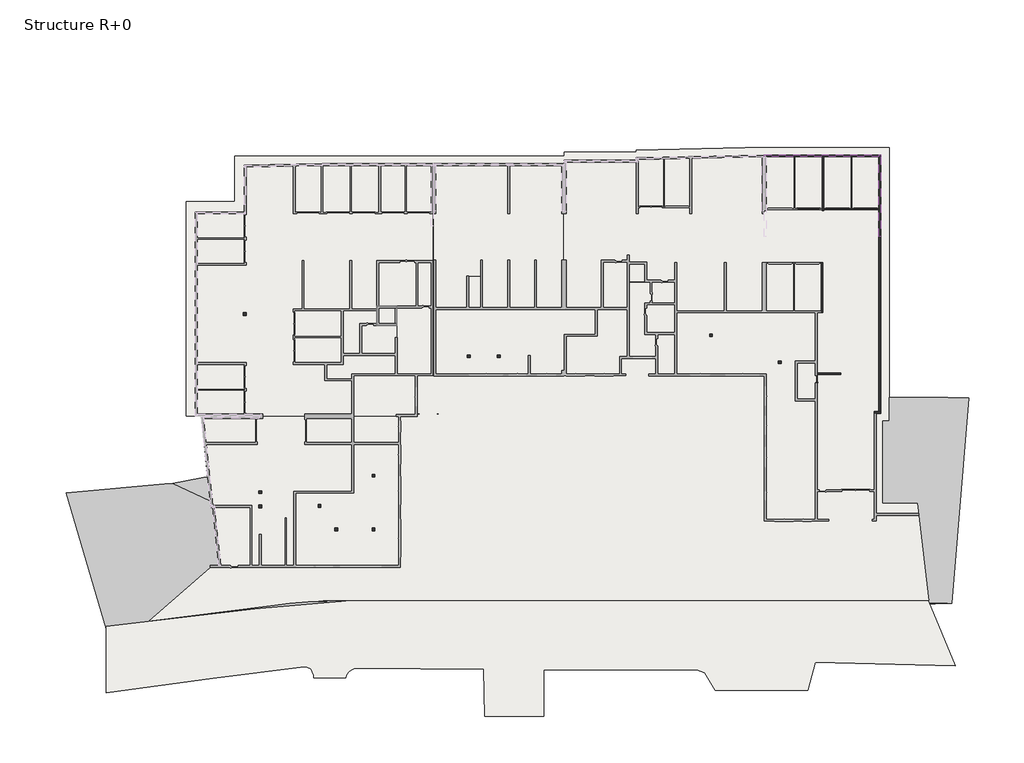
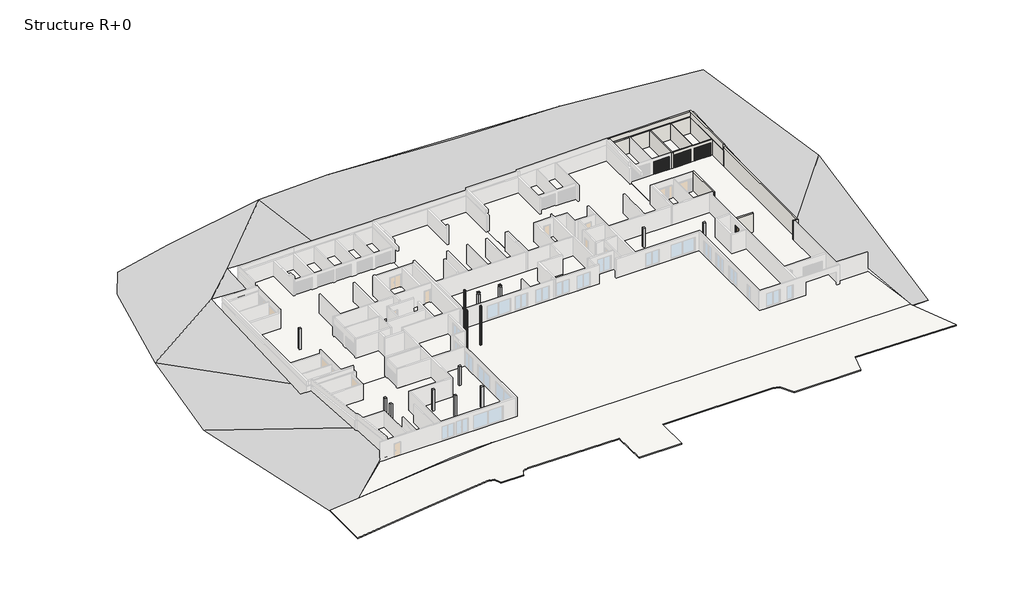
# One storey, part 5 of 5: 23 slabs, 14 columns, 11 walls, 4 doors, 2 proxies.
"""IFC4 building model written with IfcOpenShell, lengths in millimetres."""

from ifc_helpers import new_model, si_unit, point, frame, frame_2d, origin, origin_with_axes, place, context, project, spatial, polyline, circle_curve, trimmed, segment, composite_curve, outline, extrude, faceted_brep, triangles, transform, mapped, element, save
from components import tube_de_construction_hss_hss203x203x12_7_c158f98a, door_2_4m_x_2m_ca442cef, hb_simple_830_x_2040_mm_5aab85cf

model = new_model("IFC4")

# Units and contexts
model_context = context("Model", 3, world=origin())
ifc_project = project(units=[si_unit("LENGTHUNIT", "METRE", prefix="MILLI")], contexts=[model_context])

# Site, building, storey
site = spatial("IfcSite", under=ifc_project)
building = spatial("IfcBuilding", under=site)
storey = spatial("IfcBuildingStorey", under=building, Name="Structure R+0", Elevation=0.0)

# Proxies
placement = place(None, origin())
element("IfcBuildingElementProxy", 1, Name="Building Element Proxy", at=placement, inside=storey, context=model_context, shape_type="Tessellation", body=[
    triangles([(78233.6805176, 46028.1207275, 2800.0000214), (58044.7500366, 48158.6139404, 2800.0000214), (24362.7152527, 49781.8450928, 2800.0000214), (13811.7174133, 49376.0373047, 2800.0000214), (-1406.0688263, 46433.9285156, 2800.0000214), (-10130.932782, 44404.8942261, 2800.0000214), (-12667.2302948, 40143.9124512, 2800.0000214), (-16116.5953308, 24317.4156921, 2800.0000214), (-17638.3745361, 9201.0802368, 1800.0000137), (-11246.4960846, -12692.5357269, 0.0), (79451.1038818, -9973.3296112, 0.0), (82190.304126, 23099.9923279, 1800.0000137), (-1045.6879166, 10125.4656738, 1648.474815), (-2683.0019302, 10125.4656738, 1669.5794861), (-2683.0019302, 12588.499054, 1835.7141129), (-2683.0019302, 33132.4729797, 2697.9033463), (2556.9078827, 33132.4729797, 2513.7765038), (2556.9078827, 38014.9540283, 2718.6843452), (15556.5202148, 38014.9540283, 2261.8872276), (24071.6865051, 38014.9540283, 2246.4660759), (37857.170636, 38014.9540283, 2286.4802032), (37857.170636, 38419.9153564, 2305.5012806), (38994.9593262, 38419.9153564, 2308.8038406), (44271.1209961, 38419.9153564, 2309.0606564), (45579.8969238, 38419.9153564, 2311.1086418), (45579.8969238, 38681.4179993, 2323.7125237), (57236.1807861, 38924.7519836, 2353.6813339), (57286.9637329, 38925.812384, 2354.1390095), (66941.1325928, 38925.812384, 2431.5520168), (72718.496228, 38925.812384, 2458.6356834), (72718.496228, 32929.9737122, 2192.2794125), (72718.496228, 12444.2113495, 1216.4843227), (72718.496228, 9594.852713, 1061.5076632), (72017.0227661, 9594.852713, 1061.2153118), (72017.0227661, 831.0079971, 584.5496758), (75763.924292, 831.0079971, 586.1113174), (77043.7205933, -9697.3958725, 14.004715), (53037.0696533, -9697.3958725, 3.9991827), (52978.547644, -9697.3958725, 3.5299265), (52958.9674438, -9697.3958725, 3.4992851), (27043.7190491, -9697.3958725, 2.2379752), (22890.5725525, -9739.8764191, 0.0), (18737.2086273, -9739.2311096, 28.8596256), (14472.6398621, -9716.4278503, 60.2674423), (12451.6213623, -9739.6642227, 72.4219875), (10432.5329773, -9830.9569061, 79.1056184), (8417.6646835, -9990.2029999, 80.3107502), (6409.3035507, -10217.221701, 76.0360202), (-6711.7368347, -11924.6616669, 30.1231818), (-84.0792611, -6105.1622314, 450.8235723), (840.2479128, -6105.1622314, 444.4123721), (162.714523, 341.1378256, 966.0454668), (-17.313645, 341.1378256, 967.2941551), (-86.3802743, 998.2629044, 1020.4685257), (19929.9323364, 21916.9970947, 1495.9713329), (19909.9335571, 21916.9970947, 1496.0075226), (19909.9335571, 19864.6526001, 1399.3699619), (19929.9323364, 19864.6526001, 1399.3337723), (42421.1548462, 48665.8713501, 2800.0000214), (52972.1526855, -9770.4257172, 0.0)], [[53, 10, 49], [43, 49, 42], [53, 49, 50], [9, 14, 15], [14, 9, 54], [53, 54, 9], [9, 10, 53], [13, 14, 54], [50, 52, 53], [44, 46, 47], [44, 45, 46], [47, 48, 44], [51, 52, 50], [43, 44, 48], [48, 49, 43], [49, 10, 42], [9, 15, 8], [8, 15, 16], [6, 7, 16], [16, 5, 6], [18, 5, 16], [7, 8, 16], [56, 57, 55], [58, 55, 57], [17, 18, 16], [3, 4, 19], [19, 4, 18], [18, 4, 5], [42, 10, 41], [10, 60, 41], [39, 60, 38], [41, 60, 40], [60, 39, 40], [38, 60, 37], [35, 36, 33], [37, 11, 36], [11, 37, 60], [36, 11, 12], [32, 33, 12], [31, 12, 1], [12, 31, 32], [33, 36, 12], [34, 35, 33], [10, 11, 60], [20, 21, 22], [20, 22, 3], [22, 59, 3], [59, 22, 23], [59, 24, 26], [24, 59, 23], [3, 59, 2], [3, 19, 20], [25, 26, 24], [27, 28, 2], [26, 27, 2], [2, 29, 1], [29, 2, 28], [30, 1, 29], [1, 30, 31], [26, 2, 59]], closed=False),
])
element("IfcBuildingElementProxy", 2, Name="Building Element Proxy", at=placement, inside=storey, context=model_context, shape_type="Tessellation", body=[
    triangles([(19909.9335571, 21916.9970947, -1570.1595371), (19909.9335571, 21916.9970947, -10.159527), (18028.7995422, 21916.9970947, -1570.1595371), (18028.7995422, 21916.9970947, -10.159527), (17765.1214508, 21916.9970947, -1570.1595371), (17765.1214508, 21916.9970947, -10.159527), (17765.1214508, 19864.6526001, -1570.1595371), (17765.1214508, 19864.6526001, -10.159527), (18343.9919312, 19864.6526001, -1570.1595371), (18343.9919312, 19864.6526001, -10.159527), (19909.9335571, 19864.6526001, -1570.1595371), (19909.9335571, 19864.6526001, -10.159527)], [[1, 4, 2], [1, 3, 4], [3, 6, 4], [3, 5, 6], [5, 8, 6], [5, 7, 8], [7, 10, 8], [7, 9, 10], [9, 12, 10], [9, 11, 12]], closed=False),
    triangles([(19909.9335571, 21916.9970947, -1570.1595371), (19909.9335571, 21916.9970947, 1496.0075226), (19909.9335571, 19864.6526001, -1570.1595371), (19909.9335571, 19864.6526001, 1399.3699619)], [[1, 4, 2], [1, 3, 4]], closed=False),
    triangles([(19909.9335571, 21916.9970947, -1570.1595371), (17765.1214508, 21916.9970947, -1570.1595371), (17765.1214508, 19864.6526001, -1570.1595371), (19909.9335571, 19864.6526001, -1570.1595371)], [[2, 3, 1], [4, 1, 3]], closed=False),
])

# Columns
element("IfcColumn", 3, ObjectType="Poteau béton - Carré : 300mm x 300mm", at=placement, inside=storey, context=model_context, shape_type="Brep", body=[
    faceted_brep([(5432.5654203, 591.1256974, 0.0), (5432.5654203, 291.1256974, 0.0), (5132.5654203, 291.1256974, 0.0), (5132.5654203, 591.1256974, 0.0), (5432.5654203, 591.1256974, 3320.0), (5432.5654203, 291.1256974, 3320.0), (5432.5654203, 291.1256974, 2720.0), (5432.5654203, 591.1256974, 2720.0), (5344.2512184, 291.1256974, 3320.0), (5184.2512184, 291.1256974, 3320.0), (5132.5654203, 291.1256974, 3320.0), (5132.5654203, 291.1256974, 2720.0), (5132.5654203, 591.1256974, 3320.0), (5132.5654203, 591.1256974, 2720.0), (5184.2512184, 591.1256974, 3320.0), (5344.2512184, 591.1256974, 3320.0)], [[[0, 1, 2, 3]], [[4, 5, 6, 1, 0, 7]], [[5, 8, 9, 10, 11, 2, 1, 6]], [[10, 12, 13, 3, 2, 11]], [[12, 14, 15, 4, 7, 0, 3, 13]], [[4, 15, 14, 12, 10, 9, 8, 5]]]),
])
element("IfcColumn", 4, ObjectType="Poteau béton - Carré : 300mm x 300mm", at=placement, inside=storey, context=model_context, shape_type="Brep", body=[
    faceted_brep([(17573.1790818, -1887.3578077, 0.0), (17573.1790818, -2187.3578077, 0.0), (17273.1790818, -2187.3578077, 0.0), (17273.1790818, -1887.3578077, 0.0), (17573.1790818, -1887.3578077, 3320.0), (17573.1790818, -2187.3578077, 3320.0), (17573.1790818, -2187.3578077, 2720.0), (17573.1790818, -1887.3578077, 2720.0), (17273.1790818, -2187.3578077, 3320.0), (17273.1790818, -2187.3578077, 2720.0), (17273.1790818, -1887.3578077, 3320.0), (17273.1790818, -1887.3578077, 2720.0)], [[[0, 1, 2, 3]], [[4, 5, 6, 1, 0, 7]], [[5, 8, 9, 2, 1, 6]], [[8, 10, 11, 3, 2, 9]], [[10, 4, 7, 0, 3, 11]], [[4, 10, 8, 5]]]),
])
element("IfcColumn", 5, ObjectType="Poteau béton - Carré : 300mm x 300mm", at=placement, inside=storey, context=model_context, shape_type="SweptSolid", body=[
    extrude(outline(polyline([(13571.3920271, -1887.3578077), (13571.3920271, -2187.3578077), (13271.3920271, -2187.3578077), (13271.3920271, -1887.3578077), (13571.3920271, -1887.3578077)])), origin_with_axes(), (0.0, 0.0, 1.0), 3320.0),
])
element("IfcColumn", 6, ObjectType="Poteau béton - Carré : 300mm x 300mm", at=placement, inside=storey, context=model_context, shape_type="SweptSolid", body=[
    extrude(outline(polyline([(11787.2274568, 636.6320402), (11787.2274568, 336.6320402), (11487.2274568, 336.6320402), (11487.2274568, 636.6320402), (11787.2274568, 636.6320402)])), origin_with_axes(), (0.0, 0.0, 1.0), 3320.0),
])
element("IfcColumn", 7, ObjectType="Poteau béton - Carré : 300mm x 300mm", at=placement, inside=storey, context=model_context, shape_type="Brep", body=[
    faceted_brep([(17573.1790818, 3881.8241455, 0.0), (17573.1790818, 3581.8241455, 0.0), (17273.1790818, 3581.8241455, 0.0), (17273.1790818, 3881.8241455, 0.0), (17573.1790818, 3881.8241455, 3030.0), (17573.1790818, 3581.8241455, 3030.0), (17573.1790818, 3581.8241455, 2720.0), (17573.1790818, 3881.8241455, 2720.0), (17273.1790818, 3581.8241455, 3030.0), (17273.1790818, 3581.8241455, 2720.0), (17273.1790818, 3881.8241455, 3030.0)], [[[0, 1, 2, 3]], [[4, 5, 6, 1, 0, 7]], [[5, 8, 9, 2, 1, 6]], [[8, 10, 3, 2, 9]], [[10, 4, 7, 0, 3]], [[4, 10, 8, 5]]]),
])
element("IfcColumn", 8, ObjectType="Poteau béton - Carré : 300mm x 300mm", at=placement, inside=storey, context=model_context, shape_type="Brep", body=[
    faceted_brep([(5432.5654203, 2104.6479064, 0.0), (5432.5654203, 1804.6479064, 0.0), (5132.5654203, 1804.6479064, 0.0), (5132.5654203, 2104.6479064, 0.0), (5432.5654203, 2104.6479064, 3320.0), (5432.5654203, 1804.6479064, 3320.0), (5432.5654203, 1804.6479064, 2720.0), (5432.5654203, 2104.6479064, 2720.0), (5344.2512184, 1804.6479064, 3320.0), (5184.2512184, 1804.6479064, 3320.0), (5132.5654203, 1804.6479064, 3320.0), (5132.5654203, 1804.6479064, 2720.0), (5132.5654203, 2104.6479064, 3320.0), (5132.5654203, 2104.6479064, 2720.0), (5184.2512184, 2104.6479064, 3320.0), (5344.2512184, 2104.6479064, 3320.0)], [[[0, 1, 2, 3]], [[4, 5, 6, 1, 0, 7]], [[5, 8, 9, 10, 11, 2, 1, 6]], [[10, 12, 13, 3, 2, 11]], [[12, 14, 15, 4, 7, 0, 3, 13]], [[4, 15, 14, 12, 10, 9, 8, 5]]]),
])
element("IfcColumn", 9, ObjectType="Poteau béton - Carré : 300mm x 300mm", at=placement, inside=storey, context=model_context, shape_type="Brep", body=[
    faceted_brep([(3751.4301413, 21229.2306044, 0.0), (3751.4301413, 20929.2306044, 0.0), (3451.4301413, 20929.2306044, 0.0), (3451.4301413, 21229.2306044, 0.0), (3751.4301413, 21229.2306044, 3320.0), (3751.4301413, 20929.2306044, 3320.0), (3751.4301413, 20929.2306044, 2720.0), (3751.4301413, 21229.2306044, 2720.0), (3506.907833, 20929.2306044, 3320.0), (3451.4301413, 20929.2306044, 3320.0), (3451.4301413, 21229.2306044, 3320.0), (3506.907833, 21229.2306044, 3320.0)], [[[0, 1, 2, 3]], [[4, 5, 6, 1, 0, 7]], [[5, 8, 9, 2, 1, 6]], [[9, 10, 3, 2]], [[10, 11, 4, 7, 0, 3]], [[4, 11, 10, 9, 8, 5]]]),
])
element("IfcColumn", 10, ObjectType="Poteau béton - Carré : 300mm x 300mm", at=placement, inside=storey, context=model_context, shape_type="SweptSolid", body=[
    extrude(outline(polyline([(27798.3960659, 16702.7235205), (27798.3960659, 16402.7235205), (27498.3960659, 16402.7235205), (27498.3960659, 16702.7235205), (27798.3960659, 16702.7235205)])), origin_with_axes(), (0.0, 0.0, 1.0), 3030.0),
    extrude(outline(polyline([(27798.3960659, 16702.7235205), (27798.3960659, 16591.4013077), (27586.9796965, 16591.4013077), (27586.9796965, 16431.4013077), (27798.3960659, 16431.4013077), (27798.3960659, 16402.7235205), (27498.3960659, 16402.7235205), (27498.3960659, 16702.7235205), (27798.3960659, 16702.7235205)])), frame((0.0, 0.0, 3230.0), z_axis=(0.0, 0.0, 1.0), x_axis=(1.0, 0.0, 0.0)), (0.0, 0.0, 1.0), 90.0),
])
element("IfcColumn", 11, ObjectType="Poteau béton - Carré : 300mm x 300mm", at=placement, inside=storey, context=model_context, shape_type="Brep", body=[
    faceted_brep([(30993.890362, 16702.7235205, 0.0), (30993.890362, 16402.7235205, 0.0), (30693.890362, 16402.7235205, 0.0), (30693.890362, 16702.7235205, 0.0), (30993.890362, 16402.7235205, 3030.0), (30993.890362, 16702.7235205, 3030.0), (30693.890362, 16702.7235205, 3030.0), (30693.890362, 16402.7235205, 3030.0), (30993.890362, 16402.7235205, 2720.0), (30693.890362, 16402.7235205, 2720.0), (30993.890362, 16702.7235205, 2720.0), (30693.890362, 16702.7235205, 2720.0)], [[[0, 1, 2, 3]], [[4, 5, 6, 7]], [[2, 1, 8, 4, 7, 9]], [[1, 0, 10, 5, 4, 8]], [[3, 2, 9, 7, 6, 11]], [[0, 3, 11, 6, 5, 10]]]),
    faceted_brep([(30993.890362, 16431.4013077, 3320.0), (30993.890362, 16402.7235205, 3320.0), (30993.890362, 16402.7235205, 3230.0), (30993.890362, 16431.4013077, 3230.0), (30693.890362, 16402.7235205, 3320.0), (30693.890362, 16402.7235205, 3230.0), (30693.890362, 16431.4013077, 3320.0), (30693.890362, 16431.4013077, 3230.0)], [[[0, 1, 2, 3]], [[1, 4, 5, 2]], [[4, 1, 0, 6]], [[0, 3, 7, 6]], [[3, 2, 5, 7]], [[4, 6, 7, 5]]]),
    faceted_brep([(30693.890362, 16591.4013077, 3320.0), (30693.890362, 16702.7235205, 3320.0), (30693.890362, 16702.7235205, 3230.0), (30693.890362, 16591.4013077, 3230.0), (30993.890362, 16702.7235205, 3320.0), (30993.890362, 16702.7235205, 3230.0), (30993.890362, 16591.4013077, 3320.0), (30993.890362, 16591.4013077, 3230.0)], [[[0, 1, 2, 3]], [[1, 4, 5, 2]], [[4, 6, 7, 5]], [[7, 6, 0, 3]], [[4, 1, 0, 6]], [[5, 7, 3, 2]]]),
])
element("IfcColumn", 12, ObjectType="Poteau béton - Carré : 300mm x 300mm", at=placement, inside=storey, context=model_context, shape_type="Brep", body=[
    faceted_brep([(53760.2396364, 18942.1228071, 3030.0), (53760.2396364, 18642.1228071, 3030.0), (53760.2396364, 18642.1228071, 2720.0), (53760.2396364, 18642.1228071, 0.0), (53760.2396364, 18942.1228071, 0.0), (53460.2396364, 18642.1228071, 3030.0), (53460.2396364, 18642.1228071, 2720.0), (53460.2396364, 18642.1228071, 0.0), (53460.2396364, 18942.1228071, 3030.0), (53460.2396364, 18942.1228071, 0.0)], [[[0, 1, 2, 3, 4]], [[1, 5, 6, 7, 3, 2]], [[5, 8, 9, 7, 6]], [[8, 0, 4, 9]], [[1, 0, 8, 5]], [[4, 3, 7, 9]]]),
])
element("IfcColumn", 13, ObjectType="Poteau béton - Carré : 300mm x 300mm", at=placement, inside=storey, context=model_context, shape_type="Brep", body=[
    faceted_brep([(61134.2365758, 16054.7420227, 3030.0), (61134.2365758, 15754.7420227, 3030.0), (61134.2365758, 15754.7420227, 2720.0), (61134.2365758, 15754.7420227, 0.0), (61134.2365758, 16054.7420227, 0.0), (61134.2365758, 16054.7420227, 2720.0), (60834.2365758, 15754.7420227, 3030.0), (60834.2365758, 15754.7420227, 2720.0), (60834.2365758, 15754.7420227, 0.0), (60834.2365758, 16054.7420227, 3030.0), (60834.2365758, 16054.7420227, 2720.0), (60834.2365758, 16054.7420227, 0.0), (61122.5915763, 16054.7420227, 3030.0)], [[[0, 1, 2, 3, 4, 5]], [[1, 6, 7, 8, 3, 2]], [[6, 9, 10, 11, 8, 7]], [[9, 12, 0, 5, 4, 11, 10]], [[1, 0, 12, 9, 6]], [[4, 3, 8, 11]]]),
])
tube_de_construction_hss_hss203x203x12_7_shape = tube_de_construction_hss_hss203x203x12_7_c158f98a(model_context)
element("IfcColumn", 14, ObjectType="Tube de construction HSS : HSS203x203x12.7", at=placement, inside=storey, context=model_context, shape_type="MappedRepresentation", body=[
    mapped(tube_de_construction_hss_hss203x203x12_7_shape, transform((24315.1478765, 10225.4652428, 0.0), x_axis=(1.0, 0.0, 0.0), y_axis=(0.0, 1.0, 0.0), z_axis=(0.0, 0.0, 1.0))),
])
element("IfcColumn", 15, ObjectType="Tube de construction HSS : HSS203x203x12.7", at=placement, inside=storey, context=model_context, shape_type="MappedRepresentation", body=[
    mapped(tube_de_construction_hss_hss203x203x12_7_shape, transform((24315.1478765, 14317.7565884, 0.0), x_axis=(1.0, 0.0, 0.0), y_axis=(0.0, 1.0, 0.0), z_axis=(0.0, 0.0, 1.0))),
])
element("IfcColumn", 16, ObjectType="Tube de construction HSS : HSS203x203x12.7", at=placement, inside=storey, context=model_context, shape_type="MappedRepresentation", body=[
    mapped(tube_de_construction_hss_hss203x203x12_7_shape, transform((22243.1552488, 10225.4652428, 0.0), x_axis=(1.0, 0.0, 0.0), y_axis=(0.0, 1.0, 0.0), z_axis=(0.0, 0.0, 1.0))),
])

# Doors
door_2_4m_x_2m_shape = door_2_4m_x_2m_ca442cef(model_context)
element("IfcDoor", 17, ObjectType="Garage basculante : 2.4m x 2m", at=placement, inside=storey, context=model_context, shape_type="MappedRepresentation", body=[
    mapped(door_2_4m_x_2m_shape, transform((67185.0379909, 31982.2354102, 0.0), x_axis=(-1.0, 0.0, 0.0), y_axis=(0.0, -1.0, 0.0), z_axis=(0.0, 0.0, 1.0))),
])
element("IfcDoor", 18, ObjectType="Garage basculante : 2.4m x 2m", at=placement, inside=storey, context=model_context, shape_type="MappedRepresentation", body=[
    mapped(door_2_4m_x_2m_shape, transform((70159.5680431, 31982.2354102, 0.0), x_axis=(-1.0, 0.0, 0.0), y_axis=(0.0, -1.0, 0.0), z_axis=(0.0, 0.0, 1.0))),
])
element("IfcDoor", 19, ObjectType="Garage basculante : 2.4m x 2m", at=placement, inside=storey, context=model_context, shape_type="MappedRepresentation", body=[
    mapped(door_2_4m_x_2m_shape, transform((64052.7977519, 31982.2354102, 0.0), x_axis=(-1.0, 0.0, 0.0), y_axis=(0.0, -1.0, 0.0), z_axis=(0.0, 0.0, 1.0))),
])
hb_simple_830_x_2040_mm_shape = hb_simple_830_x_2040_mm_5aab85cf(model_context)
element("IfcDoor", 20, ObjectType="HB-Simple : 830 x 2040 mm", at=placement, inside=storey, context=model_context, shape_type="MappedRepresentation", body=[
    mapped(hb_simple_830_x_2040_mm_shape, transform((64912.3933514, 14061.6841597, 0.0), x_axis=(0.0, 1.0, 0.0), y_axis=(-1.0, 0.0, 0.0), z_axis=(0.0, 0.0, 1.0))),
])

# Slabs
element("IfcSlab", 21, ObjectType="Dalle en béton - 180 mm", at=placement, inside=storey, context=model_context, shape_type="SweptSolid", body=[
    extrude(outline(polyline([(45611.6653664, 37390.5992191), (45611.6653664, 31857.8990422), (45818.577574, 31857.8990422), (45818.577574, 37659.9648356), (51333.0781831, 37775.0845069), (51333.0781831, 31877.172088), (51533.0781831, 31877.172088), (51533.0781831, 37779.2596691), (59092.2183923, 37937.0628498), (59092.2183923, 31859.1437413), (59292.2183923, 31859.1437413), (59292.2183923, 26619.1437413), (59092.1504559, 26619.1437413), (59092.1504559, 21416.8311178), (55255.0088791, 21416.8311178), (55255.0088791, 26622.6249157), (55055.0088791, 26622.6249157), (55055.0088791, 21416.8311178), (49924.9149229, 21416.8311178), (49924.9149229, 26622.6249159), (49724.9149229, 26622.6249159), (49724.9149229, 24700.9913711), (46707.3903862, 24700.9913711), (46707.3903862, 26657.7796483), (44857.2462422, 26657.7796483), (44857.2462422, 27389.0932928), (44657.2462422, 27389.0932928), (44657.2462422, 26857.7811664), (44137.2462422, 26857.7811664), (44137.2462422, 26657.7811664), (44657.2462422, 26657.7811664), (44657.2462422, 21772.4950582), (42066.5033212, 21772.4950582), (42066.5033212, 26657.7811664), (43222.2462422, 26657.7811664), (43222.2462422, 26857.7811664), (41866.5033212, 26857.7811664), (41866.5033212, 21772.4950582), (38068.7313075, 21772.4950582), (38068.7313075, 26872.4950582), (37868.6597873, 26872.4950582), (37868.6597873, 31857.900389), (38068.6597872, 31857.900389), (38068.6597872, 37390.5992191), (45611.6653664, 37390.5992191)])), frame((0.0, 0.0, -180.0), z_axis=(0.0, 0.0, 1.0), x_axis=(1.0, 0.0, 0.0)), (0.0, 0.0, 1.0), 180.0),
])
element("IfcSlab", 22, ObjectType="Dalle en béton - 180 mm", at=placement, inside=storey, context=model_context, shape_type="SweptSolid", body=[
    extrude(outline(polyline([(65533.9384076, 37944.6162149), (65533.9384076, 32184.6162149), (65733.9384076, 32184.6162149), (65733.9384076, 37944.6162149), (71597.5986876, 37944.6162149), (71597.5986876, 10614.6162149), (71127.0236897, 10614.6162149), (71127.0236897, 2234.0303718), (65012.3933514, 2234.0303718), (65012.3933514, 13674.0303718), (64812.3933514, 13674.0303718), (64812.3933514, 11949.2539559), (62872.0153589, 11949.2539559), (62872.0153589, 15809.2539559), (64812.3933514, 15809.2539559), (64812.3933514, 14458.6841597), (64990.3933514, 14458.6841597), (64990.3933514, 14561.6841597), (67512.4928539, 14561.6841597), (67512.4928539, 14761.6841597), (65012.3933514, 14761.6841597), (65012.3933514, 21216.6652274), (65613.8694348, 21216.6652274), (65613.8694348, 26622.6249188), (65413.8694348, 26622.6249188), (65413.8694348, 21416.6652274), (59552.3933514, 21416.6652274), (59552.3933514, 26622.6249188), (59352.3933514, 26622.6249188), (59352.3933514, 32222.6249188), (59552.998512, 32222.6249188), (59552.998512, 37944.6162149), (65533.9384076, 37944.6162149)])), frame((0.0, 0.0, -180.0), z_axis=(0.0, 0.0, 1.0), x_axis=(1.0, 0.0, 0.0)), (0.0, 0.0, 1.0), 180.0),
])
element("IfcSlab", 23, ObjectType="Dalle en béton - 12 + 6 RS commun", at=placement, inside=storey, context=model_context, shape_type="SweptSolid", body=[
    extrude(outline(polyline([(44857.2462422, 24500.9913711), (47087.0291518, 24500.9913711), (47087.0291518, 22272.2599127), (46527.9132164, 22272.2599127), (46527.9132164, 21747.2599127), (46712.9132164, 21747.2599127), (46712.9132164, 20847.2599127), (46527.9132164, 20847.2599127), (46527.9132164, 18865.2786309), (47687.5546594, 18865.2786309), (47687.5546594, 18473.9667397), (47892.5546594, 18473.9667397), (47892.5546594, 18873.9667397), (49724.9149229, 18873.9667397), (49724.9149229, 14647.8264154), (47887.5546594, 14647.8264154), (47887.5546594, 17573.9667397), (47687.5546594, 17573.9667397), (47687.5546594, 16492.6881549), (44857.2462422, 16492.6881549), (44857.2462422, 22345.8133361), (44857.2462422, 24500.9913711)])), frame((0.0, 0.0, -180.0), z_axis=(0.0, 0.0, 1.0), x_axis=(1.0, 0.0, 0.0)), (0.0, 0.0, 1.0), 180.0),
])
element("IfcSlab", 24, ObjectType="Dalle en béton - 12 + 6 RS commun", at=placement, inside=storey, context=model_context, shape_type="SweptSolid", body=[
    extrude(outline(polyline([(59292.0817176, 21216.8311178), (59292.0817176, 14647.8264154), (49924.9149229, 14647.8264154), (49924.9149229, 21216.8311178), (59292.0817176, 21216.8311178)])), frame((0.0, 0.0, -180.0), z_axis=(0.0, 0.0, 1.0), x_axis=(1.0, 0.0, 0.0)), (0.0, 0.0, 1.0), 180.0),
])
element("IfcSlab", 25, ObjectType="Dalle en béton - 12 + 6 RS commun", at=placement, inside=storey, context=model_context, shape_type="SweptSolid", body=[
    extrude(outline(polyline([(60884.2316909, 21216.6652274), (60884.2316909, 20864.62724), (61084.2316909, 20864.62724), (61084.2316909, 21216.6652274), (64812.3933514, 21216.6652274), (64812.3933514, 16009.2539559), (62672.0153589, 16009.2539559), (62672.0153589, 11749.2539559), (64812.3933514, 11749.2539559), (64812.3933514, -947.3118451), (59542.9059955, -947.3118451), (59542.9059955, 14662.6881549), (59352.9059955, 14662.6881549), (59352.9059955, 21216.6652274), (60884.2316909, 21216.6652274)])), frame((0.0, 0.0, -180.0), z_axis=(0.0, 0.0, 1.0), x_axis=(1.0, 0.0, 0.0)), (0.0, 0.0, 1.0), 180.0),
])
element("IfcSlab", 26, ObjectType="Dalle en béton - 12 + 6 RS commun", at=placement, inside=storey, context=model_context, shape_type="SweptSolid", body=[
    extrude(outline(polyline([(49724.9149229, 24500.9913711), (49724.9149229, 22272.2599127), (47287.0291518, 22272.2599127), (47287.0291518, 24500.9913711), (49724.9149229, 24500.9913711)])), frame((0.0, 0.0, -180.0), z_axis=(0.0, 0.0, 1.0), x_axis=(1.0, 0.0, 0.0)), (0.0, 0.0, 1.0), 180.0),
])
element("IfcSlab", 27, ObjectType="Dalle en béton - 12 + 6 RS commun", at=placement, inside=storey, context=model_context, shape_type="SweptSolid", body=[
    extrude(outline(polyline([(44657.2462422, 21572.4500352), (44657.2462422, 16492.6881549), (43811.1802983, 16492.6881549), (43811.1802983, 14652.6881549), (38071.1802983, 14652.6881549), (38071.1802983, 18692.6881549), (41431.1802983, 18692.6881549), (41431.1802983, 21572.4500352), (44657.2462422, 21572.4500352)])), frame((0.0, 0.0, -180.0), z_axis=(0.0, 0.0, 1.0), x_axis=(1.0, 0.0, 0.0)), (0.0, 0.0, 1.0), 180.0),
])
element("IfcSlab", 28, ObjectType="Terre-plein Béton - 1", at=placement, inside=storey, context=model_context, shape_type="SweptSolid", body=[
    extrude(outline(composite_curve([segment(polyline([(-1045.6878974, 10125.4652425), (-2683.0020232, 10125.4652425), (-2683.0020232, 33132.4734178), (2556.9078335, 33132.4734178), (2556.9078335, 38014.9531321), (37857.1696751, 38014.9531321), (37857.1696751, 38419.915437), (45579.8951342, 38419.915437), (45579.8951342, 38681.4180541), (57286.9614412, 38925.8125552), (72718.498036, 38925.8125552), (72718.498036, 9594.8529282), (72017.0236897, 9594.8529282), (72017.0236897, 831.008028), (75763.9236591, 831.008028), (77043.7192501, -9697.3958204), (27043.7192501, -9697.3958204)]), True, "CONTINUOUS"), segment(trimmed(circle_curve(frame_2d((20876.0217472, 390255.0507373)), 400000.0), [point((27043.7192501, -9697.3958204))], [point((18737.2090131, -9739.2310719))], False, "CARTESIAN"), True, "CONTINUOUS"), segment(polyline([(18737.2090131, -9739.2310719), (14472.6393717, -9716.4279563)]), True, "CONTINUOUS"), segment(trimmed(circle_curve(frame_2d((14151.8174615, -69715.5702277)), 60000.0), [point((14472.6393717, -9716.4279563))], [point((6409.3035441, -10217.221694))], True, "CARTESIAN"), True, "CONTINUOUS"), segment(polyline([(6409.3035441, -10217.221694), (-6711.7369842, -11924.6613357), (-84.079262, -6105.1620119), (840.2479411, -6105.1620119), (162.7145278, 341.1378118), (-17.3136452, 341.1378118), (-1045.6878974, 10125.4652425)]), True, "CONTINUOUS")], self_intersect=False), holes=[polyline([(19929.9333488, 21916.9971343), (17765.1211572, 21916.9971343), (17765.1211572, 19864.6534315), (19929.9333488, 19864.6534315), (19929.9333488, 21916.9971343)]), polyline([(46707.3903862, 26657.7796483), (44657.2462422, 26657.7796483), (44657.2462422, 24500.9913711), (46707.3903862, 24500.9913711), (46707.3903862, 26657.7796483)])]), frame((0.0, 0.0, -10.0), z_axis=(0.0, 0.0, 1.0), x_axis=(1.0, 0.0, 0.0)), (0.0, 0.0, 1.0), 10.0),
])
element("IfcSlab", 29, ObjectType="Dalle en béton - 180 mm", at=placement, inside=storey, context=model_context, shape_type="SweptSolid", body=[
    extrude(outline(polyline([(32028.7587922, 37002.4079561), (37608.398272, 37002.4079561), (37608.398272, 31857.8211921), (37788.398272, 31857.8211921), (37788.398272, 26857.8211921), (37608.398272, 26857.8211921), (37608.398272, 21772.7235205), (34893.7772107, 21772.7235205), (34893.7772107, 26872.7235205), (34693.7772107, 26872.7235205), (34693.7772107, 21772.7235205), (32028.7712439, 21772.7235205), (32028.7712439, 26892.7235205), (31828.7712439, 26892.7235205), (31828.7712439, 21772.7235205), (29098.2960148, 21772.7235205), (29098.2960148, 26872.7235205), (28906.926938, 26872.7235205), (28906.926938, 25172.7235205), (27426.926938, 25172.7235205), (27426.926938, 21772.7235205), (24079.3002373, 21772.7235205), (24079.3002373, 26864.9130524), (23879.4832806, 26864.9130524), (23879.4832806, 31844.9130524), (24079.4832806, 31844.9130524), (24079.4832806, 37002.4079561), (31828.7587922, 37002.4079561), (31828.7587922, 31857.8938935), (32028.7587922, 31857.8938935), (32028.7587922, 37002.4079561)])), frame((0.0, 0.0, -180.0), z_axis=(0.0, 0.0, 1.0), x_axis=(1.0, 0.0, 0.0)), (0.0, 0.0, 1.0), 180.0),
])
element("IfcSlab", 30, ObjectType="Dalle en béton - 180 mm", at=placement, inside=storey, context=model_context, shape_type="SweptSolid", body=[
    extrude(outline(polyline([(18199.2548774, 37002.4079561), (23603.2655761, 37002.4079561), (23603.2655761, 31942.4079561), (23803.2655761, 31942.4079561), (23803.2655761, 31807.8463688), (23803.2655761, 26787.8872551), (21913.9631975, 26787.8872551), (21913.9631975, 26587.8872551), (21995.0786989, 26587.8872551), (21995.0786989, 21916.9971343), (17965.0880762, 21916.9971343), (17965.0880762, 26587.8950404), (20203.9658901, 26587.8950404), (20203.9658901, 26787.8872551), (17765.0880762, 26787.8872551), (17765.0880762, 21625.9455164), (15093.9907355, 21625.9455164), (15093.9907355, 26785.8625842), (14893.9907355, 26785.8625842), (14893.9907355, 21625.8625842), (9958.0983694, 21625.8625842), (9958.0983694, 26785.9455164), (9761.4301413, 26785.9455164), (9761.4301413, 21625.9455164), (8901.4301413, 21625.9455164), (8901.4301413, 21425.8625842), (13964.9548931, 21425.8625842), (13964.9548931, 15849.6332906), (8889.3203129, 15849.6332906), (8889.3203129, 15649.6332906), (12209.3203129, 15649.6332906), (12209.3203129, 13917.7151113), (15109.3203129, 13917.7151113), (15109.3203129, 10325.4117008), (10058.3074148, 10325.4117008), (10058.3074148, 10145.4652425), (5558.3074148, 10145.4652425), (5558.3074148, 10325.4652425), (-1483.0020232, 10325.4652425), (-1483.0020232, 15649.6332908), (3656.9078323, 15649.6332908), (3656.9078323, 15849.6332908), (-1483.0020232, 15849.6332908), (-1483.0020232, 26308.0923089), (3656.9078335, 26308.0923089), (3656.9078335, 26508.0923089), (-1483.0020232, 26508.0923089), (-1483.0020232, 31828.092309), (3756.9078335, 31828.092309), (3756.9078335, 36840.1745184), (8817.5131269, 36940.9310569), (8817.5131269, 31942.4079561), (9017.5131269, 31942.4079561), (9017.5131269, 36944.9130524), (11803.2321127, 37000.3766553), (11803.2321127, 31942.4079561), (12003.2321127, 31942.4079561), (12003.2321127, 37002.4079561), (17999.2548774, 37002.4079561), (17999.2548774, 31942.4079561), (18199.2548774, 31942.4079561), (18199.2548774, 37002.4079561)])), frame((0.0, 0.0, -180.0), z_axis=(0.0, 0.0, 1.0), x_axis=(1.0, 0.0, 0.0)), (0.0, 0.0, 1.0), 180.0),
])
element("IfcSlab", 31, ObjectType="Dalle en béton - 180 mm", at=placement, inside=storey, context=model_context, shape_type="SweptSolid", body=[
    extrude(outline(polyline([(5558.3074148, 9865.4625547), (5558.3074148, 10068.5535935), (10049.1685522, 10068.5535935), (10049.1685522, 9868.5535935), (15109.1685522, 9868.5535935), (15109.1685522, 7268.5535935), (10159.7679812, 7268.5535935), (10159.7679812, 7068.553593), (15109.3203129, 7068.553593), (15109.3203129, 2054.6479064), (8879.0548308, 2054.6479064), (8879.0548308, -5905.1620119), (5382.6096912, -5905.1620119), (5382.6096912, -2585.6481556), (5182.6096912, -2585.6481556), (5182.6096912, -5905.1620119), (4382.6863548, -5905.1620119), (4382.6863548, 541.1378118), (187.4324328, 504.7854609), (-523.2918803, 7068.5535935), (4872.6746666, 7068.5535935), (4872.6746666, 7281.5130117), (-527.3253334, 7281.5130117), (-817.2588578, 9865.4625547), (5558.3074148, 9865.4625547)])), frame((0.0, 0.0, -180.0), z_axis=(0.0, 0.0, 1.0), x_axis=(1.0, 0.0, 0.0)), (0.0, 0.0, 1.0), 180.0),
])
element("IfcSlab", 32, ObjectType="Dalle en béton - 180 mm", at=placement, inside=storey, context=model_context, shape_type="SweptSolid", body=[
    extrude(outline(polyline([(4182.6863548, 341.1378118), (4182.6863548, -5905.1620119), (2929.6863548, -5905.1620119), (2929.6863548, -6105.6481556), (2029.6863548, -6105.6481556), (2029.6863548, -5905.1620119), (1051.5537078, -5905.1620119), (403.4202137, 341.1378118), (4182.6863548, 341.1378118)])), frame((0.0, 0.0, -180.0), z_axis=(0.0, 0.0, 1.0), x_axis=(1.0, 0.0, 0.0)), (0.0, 0.0, 1.0), 180.0),
])
element("IfcSlab", 33, ObjectType="Dalle en béton - 12 + 6 RS commun", at=placement, inside=storey, context=model_context, shape_type="SweptSolid", body=[
    extrude(outline(polyline([(20115.920738, -5905.1620119), (9088.4281775, -5905.1620119), (9088.4281775, 1868.5535935), (15309.3203129, 1868.5535935), (15309.3203129, 7068.5535935), (20115.920738, 7068.5535935), (20115.920738, -5905.1620119)])), frame((0.0, 0.0, -180.0), z_axis=(0.0, 0.0, 1.0), x_axis=(1.0, 0.0, 0.0)), (0.0, 0.0, 1.0), 180.0),
])
element("IfcSlab", 34, ObjectType="Dalle en béton - 12 + 6 RS commun", at=placement, inside=storey, context=model_context, shape_type="SweptSolid", body=[
    extrude(outline(polyline([(15309.3203129, 7268.553593), (15309.3203129, 10065.4625547), (20115.920738, 10065.4625547), (20115.920738, 7268.553593), (15309.3203129, 7268.553593)])), frame((0.0, 0.0, -180.0), z_axis=(0.0, 0.0, 1.0), x_axis=(1.0, 0.0, 0.0)), (0.0, 0.0, 1.0), 180.0),
])
element("IfcSlab", 35, ObjectType="Dalle en béton - 12 + 6 RS commun", at=placement, inside=storey, context=model_context, shape_type="SweptSolid", body=[
    extrude(outline(polyline([(21968.3655313, 14457.8960617), (21968.3655313, 10305.4117008), (19872.9268439, 10305.4117008), (19872.9268439, 10105.4117008), (15309.3203129, 10105.4117008), (15309.3203129, 14457.8960617), (21968.3655313, 14457.8960617)])), frame((0.0, 0.0, -180.0), z_axis=(0.0, 0.0, 1.0), x_axis=(1.0, 0.0, 0.0)), (0.0, 0.0, 1.0), 180.0),
])
element("IfcSlab", 36, ObjectType="Dalle en béton - 12 + 6 RS commun", at=placement, inside=storey, context=model_context, shape_type="SweptSolid", body=[
    extrude(outline(polyline([(23603.2655761, 26587.8872551), (23603.2655761, 21916.9971343), (23453.2655761, 21916.9971343), (23453.2655761, 21716.9971343), (23603.2655761, 21716.9971343), (23603.2655761, 14657.8960617), (19949.9321418, 14657.8960617), (19949.9321418, 18528.0946332), (19749.9321418, 18528.0946332), (19749.9321418, 19864.6534315), (19909.9333487, 19864.6534315), (19909.9333487, 20064.656124), (19729.9333488, 20064.656124), (19729.9333488, 21716.9971343), (22553.2655761, 21716.9971343), (22553.2655761, 21916.9971343), (22195.0784755, 21916.9971343), (22195.0784755, 26587.8872551), (23603.2655761, 26587.8872551)])), frame((0.0, 0.0, -180.0), z_axis=(0.0, 0.0, 1.0), x_axis=(1.0, 0.0, 0.0)), (0.0, 0.0, 1.0), 180.0),
])
element("IfcSlab", 37, ObjectType="Dalle en béton - 160 mm", at=placement, inside=storey, context=model_context, shape_type="SweptSolid", body=[
    extrude(outline(polyline([(20129.9333488, 22116.9971343), (20129.9333488, 19664.6534315), (17565.1211572, 19664.6534315), (17565.1211572, 22116.9971343), (20129.9333488, 22116.9971343)])), frame((0.0, 0.0, -1560.0), z_axis=(0.0, 0.0, 1.0), x_axis=(1.0, 0.0, 0.0)), (0.0, 0.0, 1.0), 160.0),
])
element("IfcSlab", 38, ObjectType="Dalle en béton - 160 mm", at=placement, inside=storey, context=model_context, shape_type="SweptSolid", body=[
    extrude(outline(polyline([(46907.3903862, 26857.8817009), (46907.3903862, 24300.9913711), (44457.2462422, 24300.9913711), (44457.2462422, 26857.8817009), (46907.3903862, 26857.8817009)])), frame((0.0, 0.0, -1560.0), z_axis=(0.0, 0.0, 1.0), x_axis=(1.0, 0.0, 0.0)), (0.0, 0.0, 1.0), 160.0),
])
element("IfcSlab", 39, ObjectType="Dalle en béton - 12 + 6 RS commun", at=placement, inside=storey, context=model_context, shape_type="SweptSolid", body=[
    extrude(outline(polyline([(17764.9548931, 21425.8625842), (17764.9548931, 20065.8625842), (17495.0880762, 20065.8625842), (17495.0880762, 19864.656124), (19929.9333487, 19864.656124), (19929.9333487, 18528.0946332), (19749.9321418, 18528.0946332), (19749.9321418, 16844.6101745), (16166.2503534, 16844.6101745), (16166.2503534, 19864.656124), (16596.2503534, 19864.656124), (16596.2503534, 20064.656124), (15966.2503534, 20064.656124), (15966.2503534, 16841.0290332), (14164.9548931, 16841.0290332), (14164.9548931, 21425.8625842), (17764.9548931, 21425.8625842)])), frame((0.0, 0.0, -180.0), z_axis=(0.0, 0.0, 1.0), x_axis=(1.0, 0.0, 0.0)), (0.0, 0.0, 1.0), 180.0),
])
element("IfcSlab", 40, ObjectType="Dalle en béton - 12 + 6 RS commun", at=placement, inside=storey, context=model_context, shape_type="SweptSolid", body=[
    extrude(outline(polyline([(49724.9149229, 22092.2599127), (49724.9149229, 19065.2786309), (46707.9132164, 19065.2786309), (46707.9132164, 22092.2599127), (49724.9149229, 22092.2599127)])), frame((0.0, 0.0, -180.0), z_axis=(0.0, 0.0, 1.0), x_axis=(1.0, 0.0, 0.0)), (0.0, 0.0, 1.0), 180.0),
])
element("IfcSlab", 41, ObjectType="Terre-plein Béton - 1", at=placement, inside=storey, context=model_context, shape_type="SweptSolid", body=[
    extrude(outline(polyline([(19909.9333487, 21916.9971343), (19909.9333487, 19864.6534315), (17765.1211572, 19864.6534315), (17765.1211572, 21916.9971343), (19909.9333487, 21916.9971343)])), frame((0.0, 0.0, -1570.0), z_axis=(0.0, 0.0, 1.0), x_axis=(1.0, 0.0, 0.0)), (0.0, 0.0, 1.0), 10.0),
])
element("IfcSlab", 42, ObjectType="Terre-plein Béton - 1", at=placement, inside=storey, context=model_context, shape_type="SweptSolid", body=[
    extrude(outline(polyline([(46707.3903862, 26657.7796483), (46707.3903862, 24500.9913711), (44657.2462422, 24500.9913711), (44657.2462422, 26657.7796483), (46707.3903862, 26657.7796483)])), frame((0.0, 0.0, -1570.0), z_axis=(0.0, 0.0, 1.0), x_axis=(1.0, 0.0, 0.0)), (0.0, 0.0, 1.0), 10.0),
])
element("IfcSlab", 43, ObjectType="route", at=placement, inside=storey, context=model_context, shape_type="SweptSolid", body=[
    extrude(outline(composite_curve([segment(polyline([(190.0148112, -18036.7568157), (-11209.4115826, -19566.9338881), (-11209.4115826, -12453.8971895), (12043.7192501, -9697.3958204), (27043.7192501, -9697.3958204), (76907.5268727, -9697.3958204), (79808.3434011, -16664.6674472), (64812.2458389, -16322.5301874), (64012.470971, -19307.3306288), (54082.279149, -19307.3306288), (52968.3065052, -17413.3343291), (52062.142352, -17083.51755), (35662.142352, -17083.51755), (35662.142352, -22083.51755), (29362.142352, -22083.51755), (29238.9898613, -17060.8063522), (15665.5397715, -16923.0870681)]), True, "CONTINUOUS"), segment(trimmed(circle_curve(frame_2d((15693.5417551, -18175.578542)), 1252.8044553), [point((15665.5397715, -16923.0870681))], [point((14455.9669277, -17980.8285743))], True, "CARTESIAN"), True, "CONTINUOUS"), segment(polyline([(14455.9669277, -17980.8285743), (11008.0199147, -17980.8285743), (11008.0199147, -17680.8285743), (10854.2737212, -17311.5561708), (10669.7821739, -17002.2656486), (10296.3461621, -16858.9284759), (10007.3239633, -16759.86958), (190.0148112, -18036.7568157)]), True, "CONTINUOUS")], self_intersect=False)), frame((0.0, 0.0, -100.0), z_axis=(0.0, 0.0, 1.0), x_axis=(1.0, 0.0, 0.0)), (0.0, 0.0, 1.0), 160.0),
])

# Walls
element("IfcWall", 44, ObjectType="Voile BA 20 + etancheite 1 + 2 enduit", at=placement, inside=storey, context=model_context, shape_type="Brep", body=[
    faceted_brep([(71818.498036, 29401.5866004, 2510.0), (71818.498036, 37944.6162149, 2510.0), (71818.498036, 38154.6162149, 2510.0), (71818.498036, 38154.6162149, 3410.0), (71818.498036, 29401.5866004, 3410.0), (71608.498036, 29401.5866004, 2510.0), (71608.498036, 29401.5866004, 3410.0), (71608.498036, 37944.6162149, 3410.0), (71608.498036, 38154.6162149, 3410.0), (71608.498036, 38154.6162149, 2510.0), (71608.498036, 38134.6162149, 2510.0)], [[[0, 1, 2, 3, 4]], [[5, 6, 7, 8, 9, 10]], [[3, 2, 9, 8]], [[2, 1, 0, 5, 10, 9]], [[4, 3, 8, 7, 6]], [[0, 4, 6, 5]]]),
])
element("IfcWall", 45, ObjectType="Voile BA 20 + etancheite 1 + 2 enduit", at=placement, inside=storey, context=model_context, shape_type="Brep", body=[
    faceted_brep([(71608.498036, 38154.6162149, 2510.0), (59352.2183923, 38154.6162149, 2510.0), (59352.2183923, 38154.6162149, 3410.0), (71608.498036, 38154.6162149, 3410.0), (59352.2183923, 37944.6162149, 3410.0), (59352.2183923, 37944.6162149, 2510.0), (59353.0074525, 37944.6162149, 2510.0), (59353.0074525, 37944.6162149, 2710.0), (71608.498036, 37944.6162149, 2710.0), (71608.498036, 37944.6162149, 3410.0), (71608.498036, 38134.6162149, 2510.0), (59353.0074525, 38134.6162149, 2510.0), (71608.498036, 38134.6162149, 2710.0), (59353.0074525, 38134.6162149, 2710.0)], [[[0, 1, 2, 3]], [[4, 5, 6, 7, 8, 9]], [[1, 0, 10, 11, 6, 5]], [[2, 1, 5, 4]], [[3, 2, 4, 9]], [[0, 3, 9, 8, 12, 10]], [[13, 12, 8, 7]], [[13, 11, 10, 12]], [[11, 13, 7, 6]]]),
])
element("IfcWall", 46, ObjectType="Ext. Voile BA 20", at=placement, inside=storey, context=model_context, shape_type="Brep", body=[
    faceted_brep([(59552.998512, 37944.6162149, 0.0), (62531.6570963, 37944.6162149, 0.0), (62601.6570963, 37944.6162149, 0.0), (65533.9384076, 37944.6162149, 0.0), (65733.9384076, 37944.6162149, 0.0), (71618.498036, 37944.6162149, 0.0), (71818.498036, 37944.6162149, 0.0), (71818.498036, 37944.6162149, 2510.0), (71618.498036, 37944.6162149, 2510.0), (65733.9384076, 37944.6162149, 2510.0), (65533.9384076, 37944.6162149, 2510.0), (59552.998512, 37944.6162149, 2510.0), (59552.998512, 38144.6162149, 0.0), (59552.998512, 38144.6162149, 2510.0), (71818.498036, 38144.6162149, 2510.0), (71818.498036, 38144.6162149, 0.0)], [[[0, 1, 2, 3, 4, 5, 6, 7, 8, 9, 10, 11]], [[12, 13, 14, 15]], [[6, 5, 4, 3, 2, 1, 0, 12, 15]], [[11, 10, 9, 8, 7, 14, 13]], [[0, 11, 13, 12]], [[7, 6, 15, 14]]]),
])
element("IfcWall", 47, ObjectType="Ext. Voile BA 20", at=placement, inside=storey, context=model_context, shape_type="Brep", body=[
    faceted_brep([(71818.498036, 10614.6162149, 0.0), (71618.498036, 10614.6162149, 0.0), (71127.0236897, 10614.6162149, 0.0), (71127.0236897, 10614.6162149, 2720.0), (71127.0236897, 10614.6162149, 3030.0), (71618.498036, 10614.6162149, 3030.0), (71818.498036, 10614.6162149, 3030.0), (71818.498036, 10414.6162149, 0.0), (71818.498036, 10414.6162149, 3030.0), (71327.0236897, 10414.6162149, 3030.0), (71127.0236897, 10414.6162149, 3030.0), (71127.0236897, 10414.6162149, 0.0), (71327.0236897, 10414.6162149, 0.0)], [[[0, 1, 2, 3, 4, 5, 6]], [[7, 8, 9, 10, 11, 12]], [[2, 1, 0, 7, 12, 11]], [[6, 5, 4, 10, 9, 8]], [[4, 3, 2, 11, 10]], [[0, 6, 8, 7]]]),
])
element("IfcWall", 48, ObjectType="Ext. Voile BA 20", at=placement, inside=storey, context=model_context, shape_type="SweptSolid", body=[
    extrude(outline(polyline([(65012.3933514, 14761.6841597), (67512.4928539, 14761.6841597), (67512.4928539, 14561.6841597), (65012.3933514, 14561.6841597), (65012.3933514, 14761.6841597)])), origin_with_axes(), (0.0, 0.0, 1.0), 3030.0),
])
element("IfcWall", 49, ObjectType="Ext. Voile BA 20 + 2 enduit", at=placement, inside=storey, context=model_context, shape_type="Brep", body=[
    faceted_brep([(71618.498036, 29301.5866004, 3030.0), (71618.498036, 29301.5866004, 2720.0), (71618.498036, 29301.5866004, 2510.0), (71618.498036, 29301.5866004, 0.0), (71618.498036, 10614.6162149, 0.0), (71618.498036, 10614.6162149, 3030.0), (71618.498036, 29147.9024223, 3030.0), (71818.498036, 29301.5866004, 0.0), (71818.498036, 29301.5866004, 2510.0), (71818.498036, 29301.5866004, 2720.0), (71818.498036, 29301.5866004, 3030.0), (71818.498036, 29147.9024223, 3030.0), (71818.498036, 10614.6162149, 3030.0), (71818.498036, 10614.6162149, 0.0), (71798.498036, 29301.5866004, 3030.0), (71794.898036, 29301.5866004, 3030.0)], [[[0, 1, 2, 3, 4, 5, 6]], [[7, 8, 9, 10, 11, 12, 13]], [[4, 3, 7, 13]], [[0, 6, 5, 12, 11, 10, 14, 15]], [[0, 15, 14, 10, 9, 8, 7, 3, 2, 1]], [[5, 4, 13, 12]]]),
])
element("IfcWall", 50, ObjectType="Ext. Voile BA 20 + 2 enduit", at=placement, inside=storey, context=model_context, shape_type="Brep", body=[
    faceted_brep([(71818.498036, 29301.5866004, 0.0), (71818.498036, 37944.6162149, 0.0), (71818.498036, 37944.6162149, 2510.0), (71818.498036, 29401.5866004, 2510.0), (71818.498036, 29301.5866004, 2510.0), (71618.498036, 29301.5866004, 0.0), (71618.498036, 29301.5866004, 2510.0), (71618.498036, 32275.787736, 2510.0), (71618.498036, 32375.787736, 2510.0), (71618.498036, 37944.6162149, 2510.0), (71618.498036, 37944.6162149, 0.0)], [[[0, 1, 2, 3, 4]], [[5, 6, 7, 8, 9, 10]], [[1, 0, 5, 10]], [[4, 3, 2, 9, 8, 7, 6]], [[0, 4, 6, 5]], [[2, 1, 10, 9]]]),
])
element("IfcWall", 51, ObjectType="Int. Brique 70 mm", at=placement, inside=storey, context=model_context, shape_type="SweptSolid", body=[
    extrude(outline(polyline([(68666.1375742, 32375.787736), (68666.1375742, 37924.6162149), (68736.1375742, 37924.6162149), (68736.1375742, 32375.787736), (68666.1375742, 32375.787736)])), origin_with_axes(), (0.0, 0.0, 1.0), 2510.0),
])
element("IfcWall", 52, ObjectType="Int. Parpaing 100 mm", at=placement, inside=storey, context=model_context, shape_type="Brep", body=[
    faceted_brep([(65633.9384076, 32275.787736, -60.0), (71618.498036, 32275.787736, -60.0), (71618.498036, 32275.787736, 2510.0), (65733.9384076, 32275.787736, 2510.0), (65733.9384076, 32275.787736, 0.0), (65633.9384076, 32275.787736, 0.0), (65985.0379909, 32275.787736, 2015.0), (68415.0379909, 32275.787736, 2015.0), (68415.0379909, 32275.787736, 0.0), (65985.0379909, 32275.787736, 0.0), (68959.5680431, 32275.787736, 2015.0), (71389.5680431, 32275.787736, 2015.0), (71389.5680431, 32275.787736, 0.0), (68959.5680431, 32275.787736, 0.0), (71618.498036, 32375.787736, -60.0), (65633.9384076, 32375.787736, -60.0), (65633.9384076, 32375.787736, 0.0), (65733.9384076, 32375.787736, 0.0), (65733.9384076, 32375.787736, 2510.0), (68666.1375742, 32375.787736, 2510.0), (68736.1375742, 32375.787736, 2510.0), (71618.498036, 32375.787736, 2510.0), (68415.0379909, 32375.787736, 2015.0), (65985.0379909, 32375.787736, 2015.0), (65985.0379909, 32375.787736, 0.0), (68415.0379909, 32375.787736, 0.0), (71389.5680431, 32375.787736, 2015.0), (68959.5680431, 32375.787736, 2015.0), (68959.5680431, 32375.787736, 0.0), (71389.5680431, 32375.787736, 0.0)], [[[0, 1, 2, 3, 4, 5], [6, 7, 8, 9], [10, 11, 12, 13]], [[14, 15, 16, 17, 18, 19, 20, 21], [22, 23, 24, 25], [26, 27, 28, 29]], [[1, 0, 15, 14]], [[3, 2, 21, 20, 19, 18]], [[6, 23, 22, 7]], [[8, 25, 24, 9]], [[7, 22, 25, 8]], [[23, 6, 9, 24]], [[10, 27, 26, 11]], [[12, 29, 28, 13]], [[11, 26, 29, 12]], [[27, 10, 13, 28]], [[15, 0, 5, 16]], [[17, 16, 5, 4]], [[3, 18, 17, 4]], [[2, 1, 14, 21]]]),
])
element("IfcWall", 53, ObjectType="Voile BA 20", at=placement, inside=storey, context=model_context, shape_type="Brep", body=[
    faceted_brep([(65413.8694348, 26622.6249188, 0.0), (65413.8694348, 21416.6652274, 0.0), (65413.8694348, 21216.6652274, 0.0), (65413.8694348, 21216.6652274, 3030.0), (65413.8694348, 21416.6652274, 3030.0), (65413.8694348, 26522.6249188, 3030.0), (65413.8694348, 26622.6249188, 3030.0), (65613.8694348, 26622.6249188, 0.0), (65613.8694348, 26622.6249188, 2720.0), (65613.8694348, 26622.6249188, 3030.0), (65613.8694348, 26522.6249188, 3030.0), (65613.8694348, 21216.6652274, 3030.0), (65613.8694348, 21216.6652274, 0.0)], [[[0, 1, 2, 3, 4, 5, 6]], [[7, 8, 9, 10, 11, 12]], [[2, 1, 0, 7, 12]], [[6, 5, 4, 3, 11, 10, 9]], [[3, 2, 12, 11]], [[0, 6, 9, 8, 7]]]),
])
element("IfcWall", 54, ObjectType="Voile BA 20", at=placement, inside=storey, context=model_context, shape_type="Brep", body=[
    faceted_brep([(65533.9384076, 37944.6162149, 0.0), (65533.9384076, 32375.787736, 0.0), (65533.9384076, 32275.787736, 0.0), (65533.9384076, 32184.6162149, 0.0), (65533.9384076, 32184.6162149, 2510.0), (65533.9384076, 32275.787736, 2510.0), (65533.9384076, 32375.787736, 2510.0), (65533.9384076, 37944.6162149, 2510.0), (65733.9384076, 37944.6162149, 0.0), (65733.9384076, 37944.6162149, 2510.0), (65733.9384076, 32375.787736, 2510.0), (65733.9384076, 32275.787736, 2510.0), (65733.9384076, 32184.6162149, 2510.0), (65733.9384076, 32184.6162149, 0.0), (65733.9384076, 32275.787736, 0.0), (65733.9384076, 32375.787736, 0.0)], [[[0, 1, 2, 3, 4, 5, 6, 7]], [[8, 9, 10, 11, 12, 13, 14, 15]], [[3, 2, 1, 0, 8, 15, 14, 13]], [[4, 3, 13, 12]], [[7, 6, 5, 4, 12, 11, 10, 9]], [[0, 7, 9, 8]]]),
])

save(model, "model.ifc")
